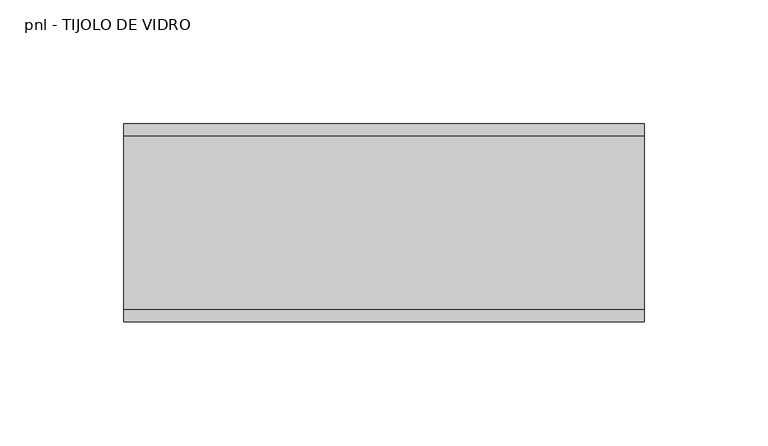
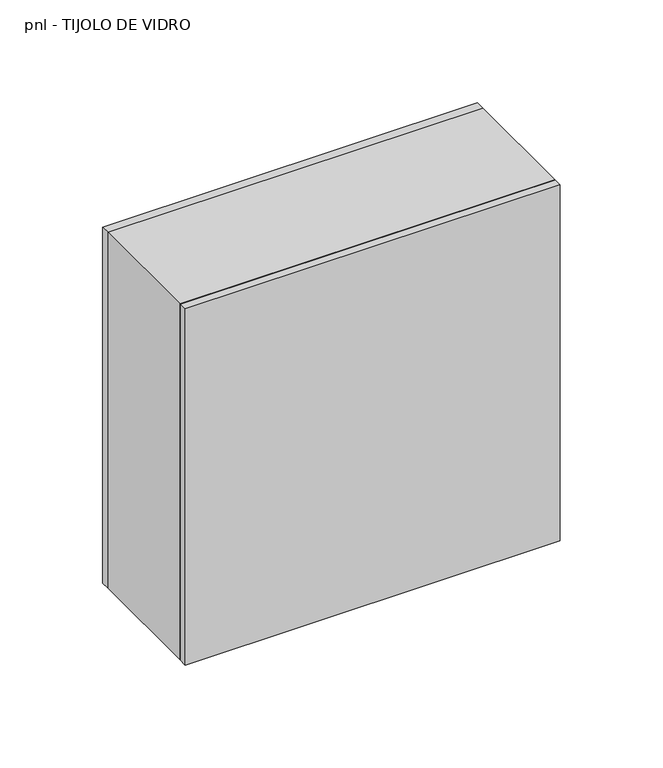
"""IFC4 building model written with IfcOpenShell, lengths in millimetres: plate geometry, pnl - TIJOLO DE VIDRO : e = 8."""

import ifcopenshell
import ifcopenshell.guid

model = None  # the IFC model being written
_history = None  # IfcOwnerHistory: only IFC2X3 demands one
_inside = {}  # id of a spatial element -> (the spatial element, [elements in it])
_under = {}  # id of a project, library or spatial element -> (it, [spatial elements below it])
_declared = {}  # id of a project -> (the project, [libraries it declares])
_typed = {}  # id of a type object -> (the type object, [elements of that type])
_made_of = {}  # id of a material, layer set ... -> (it, [elements and type objects made of it])


def new_model(schema):
    """Start an empty IFC model of exactly this schema.

    Asked for "IFC4X3", IfcOpenShell would pick the latest addendum, in which some entities
    have other attributes; the version numbers below select the first issue.
    IFC2X3 requires an IfcOwnerHistory on every rooted entity: one is made here for all.
    """
    global model, _history
    if schema == "IFC4X3":
        model = ifcopenshell.file(schema_version=(4, 3, 0, 0))
    else:
        model = ifcopenshell.file(schema=schema)
    _inside.clear()
    _under.clear()
    _declared.clear()
    _typed.clear()
    _made_of.clear()
    _history = None
    if model.schema == "IFC2X3":
        org = make("IfcOrganization", Name="unknown")
        user = make(
            "IfcPersonAndOrganization",
            ThePerson=make("IfcPerson", FamilyName="unknown"),
            TheOrganization=org,
        )
        app = make(
            "IfcApplication",
            ApplicationDeveloper=org,
            Version="unknown",
            ApplicationFullName="unknown",
            ApplicationIdentifier="unknown",
        )
        _history = make(
            "IfcOwnerHistory",
            OwningUser=user,
            OwningApplication=app,
            ChangeAction="ADDED",
            CreationDate=0,
        )
    return model


def make(cls, **values):
    """One entity of the class cls with the attributes given. An attribute that is None is left unset."""
    return model.create_entity(
        cls, **{name: value for name, value in values.items() if value is not None}
    )


def rooted(cls, **values):
    """An entity with a GlobalId (a new one), such as an element, a storey or a relation."""
    return make(cls, GlobalId=ifcopenshell.guid.new(), OwnerHistory=_history, **values)


def si_unit(unit_type, name, prefix=None):
    """IfcSIUnit, for example si_unit("LENGTHUNIT", "METRE", prefix="MILLI")."""
    return make("IfcSIUnit", UnitType=unit_type, Prefix=prefix, Name=name)


def assignment(units):
    """IfcUnitAssignment: the units of a project."""
    return None if units is None else make("IfcUnitAssignment", Units=units)


def point(xyz):
    """IfcCartesianPoint."""
    return None if xyz is None else make("IfcCartesianPoint", Coordinates=xyz)


def direction(xyz):
    """IfcDirection."""
    return None if xyz is None else make("IfcDirection", DirectionRatios=xyz)


def frame(location, z_axis=None, x_axis=None):
    """IfcAxis2Placement3D, a coordinate frame: its origin and axes. An axis left out is left unset."""
    return make(
        "IfcAxis2Placement3D",
        Location=point(location),
        Axis=direction(z_axis),
        RefDirection=direction(x_axis),
    )


def origin():
    """The frame at (0, 0, 0) with its axes left unset."""
    return frame((0.0, 0.0, 0.0))


def place(relative_to, where):
    """IfcLocalPlacement: puts the frame where relative to a parent placement (None: the world)."""
    return make(
        "IfcLocalPlacement", PlacementRelTo=relative_to, RelativePlacement=where
    )


def context(
    kind, dimensions, precision=None, world=None, true_north=None, identifier=None
):
    """IfcGeometricRepresentationContext, for example the 3D "Model" context."""
    return make(
        "IfcGeometricRepresentationContext",
        ContextIdentifier=identifier,
        ContextType=kind,
        CoordinateSpaceDimension=dimensions,
        Precision=precision,
        WorldCoordinateSystem=world,
        TrueNorth=true_north,
    )


def project(units=None, contexts=None):
    """IfcProject with its units and contexts."""
    return rooted(
        "IfcProject",
        Name="project",
        RepresentationContexts=contexts,
        UnitsInContext=assignment(units),
    )


def spatial(cls, under=None, at=None, **own):
    """A site, building, storey or space (cls), placed at a placement, below another one or the project."""
    s = rooted(cls, ObjectPlacement=at, **own)
    if under is not None:
        _under.setdefault(under.id(), (under, []))[1].append(s)
    return s


def polyline(points):
    """IfcPolyline through the points."""
    return make("IfcPolyline", Points=[point(p) for p in points])


def outline(outer, holes=None, kind="AREA"):
    """IfcArbitraryClosedProfileDef: a profile drawn as a closed curve; with holes, ...WithVoids."""
    if holes is None:
        return make("IfcArbitraryClosedProfileDef", ProfileType=kind, OuterCurve=outer)
    return make(
        "IfcArbitraryProfileDefWithVoids",
        ProfileType=kind,
        OuterCurve=outer,
        InnerCurves=holes,
    )


def extrude(swept, where, along, depth):
    """IfcExtrudedAreaSolid: the profile swept, set in the frame where, extruded along a direction by depth."""
    return make(
        "IfcExtrudedAreaSolid",
        SweptArea=swept,
        Position=where,
        ExtrudedDirection=direction(along),
        Depth=depth,
    )


def faces_of(points, faces, orient=None, outer=None):
    """IfcFace entities. A face is a list of loops; a loop is a list of indices into points, from 0.

    orient and outer hold one flag for each loop. By default every Orientation is true, the
    first loop of a face is its IfcFaceOuterBound and the others are IfcFaceBound.
    """
    made = []
    for i, loops in enumerate(faces):
        bounds = []
        for j, loop in enumerate(loops):
            is_outer = j == 0 if outer is None else outer[i][j]
            bounds.append(
                make(
                    "IfcFaceOuterBound" if is_outer else "IfcFaceBound",
                    Bound=make("IfcPolyLoop", Polygon=[points[k] for k in loop]),
                    Orientation=True if orient is None else orient[i][j],
                )
            )
        made.append(make("IfcFace", Bounds=bounds))
    return made


def faceted_brep(points, faces, orient=None, outer=None, voids=None):
    """IfcFacetedBrep: a solid bounded by flat faces; with voids (closed shells), ...WithVoids."""
    shared = [point(p) for p in points]
    hull = make("IfcClosedShell", CfsFaces=faces_of(shared, faces, orient, outer))
    if voids is None:
        return make("IfcFacetedBrep", Outer=hull)
    return make(
        "IfcFacetedBrepWithVoids",
        Outer=hull,
        Voids=[
            make(cls, CfsFaces=faces_of(shared, fs, o, b)) for cls, fs, o, b in voids
        ],
    )


def shape(context_of_items, identifier, shape_type, items):
    """IfcShapeRepresentation: the items that make up one representation, for example the "Body"."""
    return make(
        "IfcShapeRepresentation",
        ContextOfItems=context_of_items,
        RepresentationIdentifier=identifier,
        RepresentationType=shape_type,
        Items=items,
    )


def source(mapping_origin, context_of_items, identifier, shape_type, items):
    """IfcRepresentationMap: a shape defined once, which mapped items show again and again."""
    return make(
        "IfcRepresentationMap",
        MappingOrigin=mapping_origin,
        MappedRepresentation=shape(context_of_items, identifier, shape_type, items),
    )


def transform(
    local_origin,
    x_axis=None,
    y_axis=None,
    z_axis=None,
    scale=None,
    scale2=None,
    scale3=None,
    uniform=True,
):
    """IfcCartesianTransformationOperator3D, or its non-uniform kind. x_axis, y_axis, z_axis: its Axis1, 2, 3."""
    if uniform:
        return make(
            "IfcCartesianTransformationOperator3D",
            Axis1=direction(x_axis),
            Axis2=direction(y_axis),
            LocalOrigin=point(local_origin),
            Scale=scale,
            Axis3=direction(z_axis),
        )
    return make(
        "IfcCartesianTransformationOperator3DnonUniform",
        Axis1=direction(x_axis),
        Axis2=direction(y_axis),
        LocalOrigin=point(local_origin),
        Scale=scale,
        Axis3=direction(z_axis),
        Scale2=scale2,
        Scale3=scale3,
    )


def mapped(mapping_source, mapping_target):
    """IfcMappedItem: shows the shape of a source again, moved by a transform."""
    return make(
        "IfcMappedItem", MappingSource=mapping_source, MappingTarget=mapping_target
    )


def made_of(thing, what):
    """Note that an element or type object is made of a material, layer set ...; save() writes the relation."""
    if what is not None:
        _made_of.setdefault(what.id(), (what, []))[1].append(thing)
    return thing


def element(
    cls,
    number,
    at=None,
    inside=None,
    cuts=None,
    type_object=None,
    material=None,
    context=None,
    identifier="Body",
    shape_type=None,
    held_by="IfcProductDefinitionShape",
    body=None,
    shapes=None,
    **own,
):
    """One element of the class cls, such as IfcWall. Its Tag is "e" and its number.

    at: its placement. inside: the storey or other place that contains it. cuts: it is an
    opening in that element (IfcRelVoidsElement). A single representation is given by context,
    identifier, shape_type and body (its items); several are given by shapes. held_by: the class
    of the entity that holds the representations. save() writes the other relations.
    """
    e = rooted(cls, Tag="e%d" % number, ObjectPlacement=at, **own)
    if body is not None:
        shapes = [shape(context, identifier, shape_type, body)]
    if shapes is not None:
        e.Representation = make(held_by, Representations=shapes)
    if inside is not None:
        _inside.setdefault(inside.id(), (inside, []))[1].append(e)
    if cuts is not None:
        rooted(
            "IfcRelVoidsElement", RelatingBuildingElement=cuts, RelatedOpeningElement=e
        )
    if type_object is not None:
        _typed.setdefault(type_object.id(), (type_object, []))[1].append(e)
    return made_of(e, material)


def aggregate(whole, parts):
    """IfcRelAggregates: a whole, such as a stair, and the parts it consists of."""
    return rooted("IfcRelAggregates", RelatingObject=whole, RelatedObjects=parts)


def save(model, path):
    """Write the relations noted so far, then the file.

    IfcRelAggregates (storeys below a building ...), IfcRelContainedInSpatialStructure (elements
    in a storey), IfcRelDefinesByType, IfcRelAssociatesMaterial and IfcRelDeclares: one each for
    every whole, place, type object, material and project.
    """
    for whole, parts in _under.values():
        aggregate(whole, parts)
    for where, things in _inside.values():
        rooted(
            "IfcRelContainedInSpatialStructure",
            RelatedElements=things,
            RelatingStructure=where,
        )
    for kind, things in _typed.values():
        rooted("IfcRelDefinesByType", RelatedObjects=things, RelatingType=kind)
    for what, things in _made_of.values():
        rooted("IfcRelAssociatesMaterial", RelatedObjects=things, RelatingMaterial=what)
    for by, libraries in _declared.values():
        rooted("IfcRelDeclares", RelatingContext=by, RelatedDefinitions=libraries)
    model.write(path)


def pnl_tijolo_de_vidro_ff913bde(model_context):
    return source(origin(), model_context, "Body", "SolidModel", [
        extrude(outline(polyline([(211.1111111, -105.1534403), (0.0, -105.1534403), (0.0, 105.1534403), (211.1111111, 105.1534403), (211.1111111, -105.1534403)]), holes=[polyline([(196.1111111, -90.1534403), (196.1111111, 90.1534403), (15.0, 90.1534403), (15.0, -90.1534403), (196.1111111, -90.1534403)])]), frame((0.0, -35.0, 0.0), z_axis=(0.0, 1.0, 0.0), x_axis=(0.0, 0.0, 1.0)), (0.0, 0.0, 1.0), 70.0),
        faceted_brep([(-105.1534403, 35.0, 211.1111111), (-105.1534403, 35.0, 0.0), (105.1534403, 35.0, 0.0), (105.1534403, 35.0, 211.1111111), (-90.1534403, 35.0, 15.0), (-90.1534403, 35.0, 196.1111111), (90.1534403, 35.0, 196.1111111), (90.1534403, 35.0, 15.0), (-105.1534403, 40.0, 211.1111111), (105.1534403, 40.0, 211.1111111), (105.1534403, 40.0, 0.0), (-105.1534403, 40.0, 0.0), (-90.1534403, -35.0, 196.1111111), (-90.1534403, -35.0, 15.0), (90.1534403, -35.0, 15.0), (90.1534403, -35.0, 196.1111111), (-105.1534403, -35.0, 211.1111111), (105.1534403, -35.0, 211.1111111), (105.1534403, -35.0, 0.0), (-105.1534403, -35.0, 0.0), (-105.1534403, -40.0, 211.1111111), (-105.1534403, -40.0, 0.0), (105.1534403, -40.0, 0.0), (105.1534403, -40.0, 211.1111111)], [[[0, 1, 2, 3], [4, 5, 6, 7]], [[8, 9, 10, 11]], [[1, 0, 8, 11]], [[2, 1, 11, 10]], [[3, 2, 10, 9]], [[0, 3, 9, 8]], [[12, 5, 4, 13]], [[13, 4, 7, 14]], [[14, 7, 6, 15]], [[5, 12, 15, 6]], [[16, 17, 18, 19], [12, 13, 14, 15]], [[20, 21, 22, 23]], [[17, 16, 20, 23]], [[18, 17, 23, 22]], [[19, 18, 22, 21]], [[16, 19, 21, 20]]]),
    ])


if __name__ == "__main__":
    model = new_model("IFC4")
    model_context = context("Model", 3, world=origin())
    ifc_project = project(units=[si_unit("LENGTHUNIT", "METRE", prefix="MILLI")], contexts=[model_context])
    site = spatial("IfcSite", under=ifc_project)
    building = spatial("IfcBuilding", under=site)
    placement = place(None, origin())
    pnl_tijolo_de_vidro_shape = pnl_tijolo_de_vidro_ff913bde(model_context)
    element("IfcPlate", 1, ObjectType="pnl - TIJOLO DE VIDRO : e = 8", at=placement, inside=building, context=model_context, shape_type="MappedRepresentation", body=[
        mapped(pnl_tijolo_de_vidro_shape, transform((0.0, 0.0, 0.0), x_axis=(1.0, 0.0, 0.0), y_axis=(0.0, 1.0, 0.0), z_axis=(0.0, 0.0, 1.0))),
    ])
    save(model, "model.ifc")
